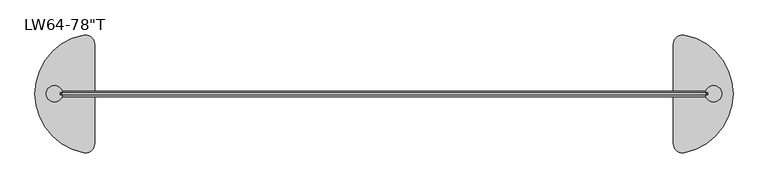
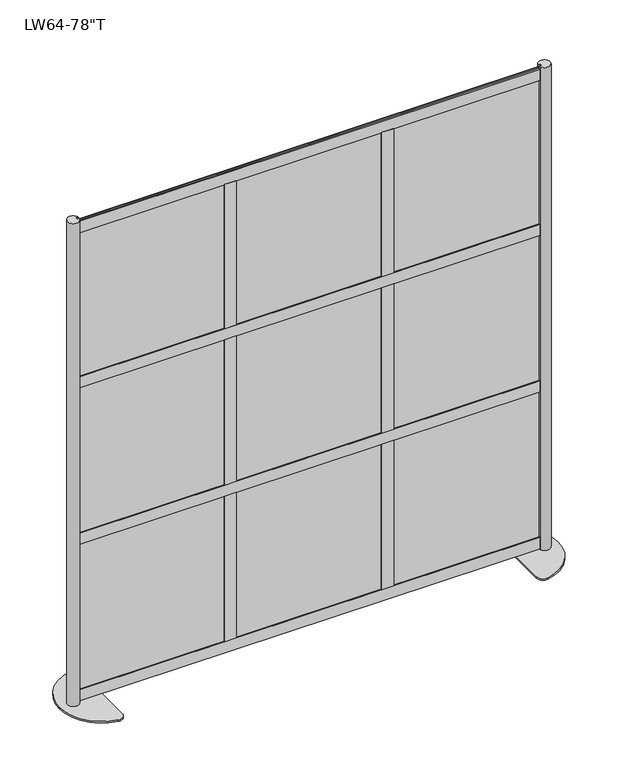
"""IFC4 building model written with IfcOpenShell, lengths in millimetres: furniture geometry."""

from ifc_helpers import new_model, si_unit, point, frame, frame_2d, origin, origin_with_axes, place, context, project, spatial, polyline, circle_curve, trimmed, segment, composite_curve, outline, extrude, source, transform, mapped, element, save


def furniture_77953dd8(model_context):
    return source(origin(), model_context, "Body", "SweptSolid", [
        extrude(outline(polyline([(-897.2933616, 1.5875), (-319.4433608, 1.5875), (-319.4435344, -1.5875), (-897.2935353, -1.5875), (-897.2933616, 1.5875)])), frame((0.0, 0.0, 1324.2670292), z_axis=(0.0, 0.0, 1.0), x_axis=(1.0, 0.0, 0.0)), (0.0, 0.0, 1.0), 608.965),
        extrude(outline(polyline([(-897.2933616, 1.5875), (-319.4433608, 1.5875), (-319.4435344, -1.5875), (-897.2935353, -1.5875), (-897.2933616, 1.5875)])), frame((0.0, 0.0, 689.2671), z_axis=(0.0, 0.0, 1.0), x_axis=(1.0, 0.0, 0.0)), (0.0, 0.0, 1.0), 608.965),
        extrude(outline(polyline([(-897.2933616, 1.5875), (-319.4433608, 1.5875), (-319.4435344, -1.5875), (-897.2935353, -1.5875), (-897.2933616, 1.5875)])), frame((0.0, 0.0, 49.2633), z_axis=(0.0, 0.0, 1.0), x_axis=(1.0, 0.0, 0.0)), (0.0, 0.0, 1.0), 608.965),
        extrude(outline(polyline([(-296.520037, 1.5875), (281.3299638, 1.5875), (281.3297902, -1.5875), (-296.5202107, -1.5875), (-296.520037, 1.5875)])), frame((0.0, 0.0, 1324.2670292), z_axis=(0.0, 0.0, 1.0), x_axis=(1.0, 0.0, 0.0)), (0.0, 0.0, 1.0), 608.965),
        extrude(outline(polyline([(-296.520037, 1.5875), (281.3299638, 1.5875), (281.3297902, -1.5875), (-296.5202107, -1.5875), (-296.520037, 1.5875)])), frame((0.0, 0.0, 689.2671), z_axis=(0.0, 0.0, 1.0), x_axis=(1.0, 0.0, 0.0)), (0.0, 0.0, 1.0), 608.965),
        extrude(outline(polyline([(-296.520037, 1.5875), (281.3299638, 1.5875), (281.3297902, -1.5875), (-296.5202107, -1.5875), (-296.520037, 1.5875)])), frame((0.0, 0.0, 49.2633), z_axis=(0.0, 0.0, 1.0), x_axis=(1.0, 0.0, 0.0)), (0.0, 0.0, 1.0), 608.965),
        extrude(outline(polyline([(316.9532876, 1.5875), (894.8032884, 1.5875), (894.8031147, -1.5875), (316.9531139, -1.5875), (316.9532876, 1.5875)])), frame((0.0, 0.0, 1324.2670292), z_axis=(0.0, 0.0, 1.0), x_axis=(1.0, 0.0, 0.0)), (0.0, 0.0, 1.0), 608.965),
        extrude(outline(polyline([(316.9532876, 1.5875), (894.8032884, 1.5875), (894.8031147, -1.5875), (316.9531139, -1.5875), (316.9532876, 1.5875)])), frame((0.0, 0.0, 689.2671), z_axis=(0.0, 0.0, 1.0), x_axis=(1.0, 0.0, 0.0)), (0.0, 0.0, 1.0), 608.965),
        extrude(outline(polyline([(316.9532876, 1.5875), (894.8032884, 1.5875), (894.8031147, -1.5875), (316.9531139, -1.5875), (316.9532876, 1.5875)])), frame((0.0, 0.0, 49.2633), z_axis=(0.0, 0.0, 1.0), x_axis=(1.0, 0.0, 0.0)), (0.0, 0.0, 1.0), 608.965),
        extrude(outline(polyline([(323.8118123, 3.556), (316.6998123, 3.556), (316.6998123, -3.556), (323.8118123, -3.556), (323.8118123, -7.6327), (278.5490123, -7.6327), (278.5490123, -3.556), (285.6610123, -3.556), (285.6610123, 3.556), (278.5490123, 3.556), (278.5490123, 7.6327), (323.8118123, 7.6327), (323.8118123, 3.556)])), frame((0.0, 0.0, 696.3791), z_axis=(0.0, 0.0, 1.0), x_axis=(1.0, 0.0, 0.0)), (0.0, 0.0, 1.0), 594.741),
        extrude(outline(polyline([(323.8118123, 3.556), (316.6998123, 3.556), (316.6998123, -3.556), (323.8118123, -3.556), (323.8118123, -7.6327), (278.5490123, -7.6327), (278.5490123, -3.556), (285.6610123, -3.556), (285.6610123, 3.556), (278.5490123, 3.556), (278.5490123, 7.6327), (323.8118123, 7.6327), (323.8118123, 3.556)])), frame((0.0, 0.0, 56.3753), z_axis=(0.0, 0.0, 1.0), x_axis=(1.0, 0.0, 0.0)), (0.0, 0.0, 1.0), 594.741),
        extrude(outline(polyline([(323.8118123, 3.556), (316.6998123, 3.556), (316.6998123, -3.556), (323.8118123, -3.556), (323.8118123, -7.6327), (278.5490123, -7.6327), (278.5490123, -3.556), (285.6610123, -3.556), (285.6610123, 3.556), (278.5490123, 3.556), (278.5490123, 7.6327), (323.8118123, 7.6327), (323.8118123, 3.556)])), frame((0.0, 0.0, 1336.3829), z_axis=(0.0, 0.0, 1.0), x_axis=(1.0, 0.0, 0.0)), (0.0, 0.0, 1.0), 590.0293),
        extrude(outline(polyline([(-329.3680623, 3.556), (-329.3680623, 7.6327), (-284.1052623, 7.6327), (-284.1052623, 3.556), (-291.2172623, 3.556), (-291.2172623, -3.556), (-284.1052623, -3.556), (-284.1052623, -7.6327), (-329.3680623, -7.6327), (-329.3680623, -3.556), (-322.2560623, -3.556), (-322.2560623, 3.556), (-329.3680623, 3.556)])), frame((0.0, 0.0, 1336.3829), z_axis=(0.0, 0.0, 1.0), x_axis=(1.0, 0.0, 0.0)), (0.0, 0.0, 1.0), 590.0293),
        extrude(outline(polyline([(-329.3680623, 3.556), (-329.3680623, 7.6327), (-284.1052623, 7.6327), (-284.1052623, 3.556), (-291.2172623, 3.556), (-291.2172623, -3.556), (-284.1052623, -3.556), (-284.1052623, -7.6327), (-329.3680623, -7.6327), (-329.3680623, -3.556), (-322.2560623, -3.556), (-322.2560623, 3.556), (-329.3680623, 3.556)])), frame((0.0, 0.0, 696.3791), z_axis=(0.0, 0.0, 1.0), x_axis=(1.0, 0.0, 0.0)), (0.0, 0.0, 1.0), 594.741),
        extrude(outline(polyline([(-329.3680623, 3.556), (-329.3680623, 7.6327), (-284.1052623, 7.6327), (-284.1052623, 3.556), (-291.2172623, 3.556), (-291.2172623, -3.556), (-284.1052623, -3.556), (-284.1052623, -7.6327), (-329.3680623, -7.6327), (-329.3680623, -3.556), (-322.2560623, -3.556), (-322.2560623, 3.556), (-329.3680623, 3.556)])), frame((0.0, 0.0, 56.3753), z_axis=(0.0, 0.0, 1.0), x_axis=(1.0, 0.0, 0.0)), (0.0, 0.0, 1.0), 594.741),
        extrude(outline(polyline([(3.556, 651.1163), (3.556, 658.2283), (-3.556, 658.2283), (-3.556, 651.1163), (-7.6327, 651.1163), (-7.6327, 696.3791), (-3.556, 696.3791), (-3.556, 689.2671), (3.556, 689.2671), (3.556, 696.3791), (7.6327, 696.3791), (7.6327, 651.1163), (3.556, 651.1163)])), frame((-889.7874, 0.0, 0.0), z_axis=(1.0, 0.0, 0.0), x_axis=(0.0, 1.0, 0.0)), (0.0, 0.0, 1.0), 1779.5748),
        extrude(outline(polyline([(3.556, 1291.1201), (3.556, 1298.2321), (-3.556, 1298.2321), (-3.556, 1291.1201), (-7.6327, 1291.1201), (-7.6327, 1336.3829), (-3.556, 1336.3829), (-3.556, 1329.2709), (3.556, 1329.2709), (3.556, 1336.3829), (7.6327, 1336.3829), (7.6327, 1291.1201), (3.556, 1291.1201)])), frame((-889.7874, 0.0, 0.0), z_axis=(1.0, 0.0, 0.0), x_axis=(0.0, 1.0, 0.0)), (0.0, 0.0, 1.0), 1779.5748),
        extrude(outline(polyline([(3.556, 11.1125), (3.556, 18.2245), (-3.556, 18.2245), (-3.556, 11.1125), (-7.6327, 11.1125), (-7.6327, 56.3753), (-3.556, 56.3753), (-3.556, 49.2633), (3.556, 49.2633), (3.556, 56.3753), (7.6327, 56.3753), (7.6327, 11.1125), (3.556, 11.1125)])), frame((-889.8636, 0.0, 0.0), z_axis=(1.0, 0.0, 0.0), x_axis=(0.0, 1.0, 0.0)), (0.0, 0.0, 1.0), 1779.7272),
        extrude(outline(polyline([(3.556, 1926.1200292), (3.556, 1933.2320292), (-3.556, 1933.2320292), (-3.556, 1926.1200292), (-7.6327, 1926.1200292), (-7.6327, 1971.3828292), (-3.556, 1971.3828292), (-3.556, 1964.2708292), (3.556, 1964.2708292), (3.556, 1971.3828292), (7.6327, 1971.3828292), (7.6327, 1926.1200292), (3.556, 1926.1200292)])), frame((-889.8636, 0.0, 0.0), z_axis=(1.0, 0.0, 0.0), x_axis=(0.0, 1.0, 0.0)), (0.0, 0.0, 1.0), 1779.7272),
        extrude(outline(composite_curve([segment(polyline([(889.8636, -7.7568093), (889.8636, -3.556), (896.9756, -3.556), (896.9756, 3.556), (889.8636, 3.556), (889.8636, 7.7568093)]), True, "CONTINUOUS"), segment(trimmed(circle_curve(frame_2d((910.9665837, 0.0)), 22.4834163), [point((889.8636, 7.7568093))], [point((889.8636, -7.7568093))], False, "CARTESIAN"), True, "CONTINUOUS")], self_intersect=False)), frame((0.0, 0.0, 6.35), z_axis=(0.0, 0.0, 1.0), x_axis=(1.0, 0.0, 0.0)), (0.0, 0.0, 1.0), 1974.85),
        extrude(outline(composite_curve([segment(polyline([(800.1, -137.3715036), (800.1, 137.3715036)]), True, "CONTINUOUS"), segment(trimmed(circle_curve(frame_2d((825.5, 137.3715036)), 25.4), [point((800.1, 137.3715036))], [point((830.1181818, 162.3481406))], False, "CARTESIAN"), True, "CONTINUOUS"), segment(trimmed(circle_curve(frame_2d((800.1, 0.0)), 165.1), [point((830.1181818, 162.3481406))], [point((965.2, 0.0))], False, "CARTESIAN"), True, "CONTINUOUS"), segment(trimmed(circle_curve(frame_2d((800.1, 0.0)), 165.1), [point((965.2, 0.0))], [point((830.1181818, -162.3481406))], False, "CARTESIAN"), True, "CONTINUOUS"), segment(trimmed(circle_curve(frame_2d((825.5, -137.3715036)), 25.4), [point((830.1181818, -162.3481406))], [point((800.1, -137.3715036))], False, "CARTESIAN"), True, "CONTINUOUS")], self_intersect=False)), origin_with_axes(), (0.0, 0.0, 1.0), 6.35),
        extrude(outline(composite_curve([segment(trimmed(circle_curve(frame_2d((-910.9665837, 0.0)), 22.4834163), [point((-889.8636, -7.7568093))], [point((-889.8636, 7.7568093))], False, "CARTESIAN"), True, "CONTINUOUS"), segment(polyline([(-889.8636, 7.7568093), (-889.8636, 3.556), (-896.9756, 3.556), (-896.9756, -3.556), (-889.8636, -3.556), (-889.8636, -7.7568093)]), True, "CONTINUOUS")], self_intersect=False)), frame((0.0, 0.0, 6.35), z_axis=(0.0, 0.0, 1.0), x_axis=(1.0, 0.0, 0.0)), (0.0, 0.0, 1.0), 1974.85),
        extrude(outline(composite_curve([segment(trimmed(circle_curve(frame_2d((-825.5, -137.3715036)), 25.4), [point((-800.1, -137.3715036))], [point((-830.1181818, -162.3481406))], False, "CARTESIAN"), True, "CONTINUOUS"), segment(trimmed(circle_curve(frame_2d((-800.1, 0.0)), 165.1), [point((-830.1181818, -162.3481406))], [point((-965.2, 0.0))], False, "CARTESIAN"), True, "CONTINUOUS"), segment(trimmed(circle_curve(frame_2d((-800.1, 0.0)), 165.1), [point((-965.2, 0.0))], [point((-830.1181818, 162.3481406))], False, "CARTESIAN"), True, "CONTINUOUS"), segment(trimmed(circle_curve(frame_2d((-825.5, 137.3715036)), 25.4), [point((-830.1181818, 162.3481406))], [point((-800.1, 137.3715036))], False, "CARTESIAN"), True, "CONTINUOUS"), segment(polyline([(-800.1, 137.3715036), (-800.1, -137.3715036)]), True, "CONTINUOUS")], self_intersect=False)), origin_with_axes(), (0.0, 0.0, 1.0), 6.35),
    ])


if __name__ == "__main__":
    model = new_model("IFC4")
    model_context = context("Model", 3, world=origin())
    ifc_project = project(units=[si_unit("LENGTHUNIT", "METRE", prefix="MILLI")], contexts=[model_context])
    site = spatial("IfcSite", under=ifc_project)
    building = spatial("IfcBuilding", under=site)
    placement = place(None, origin())
    furniture_shape = furniture_77953dd8(model_context)
    element("IfcFurniture", 1, ObjectType="Loft_Wall-Framewall-76 : LW64-78\"T", at=placement, inside=building, context=model_context, shape_type="MappedRepresentation", body=[
        mapped(furniture_shape, transform((0.0, 0.0, 0.0), x_axis=(1.0, 0.0, 0.0), y_axis=(0.0, 1.0, 0.0), z_axis=(0.0, 0.0, 1.0))),
    ])
    save(model, "model.ifc")
